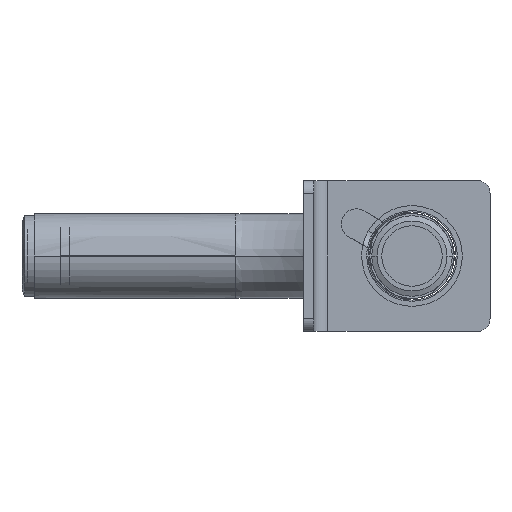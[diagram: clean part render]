
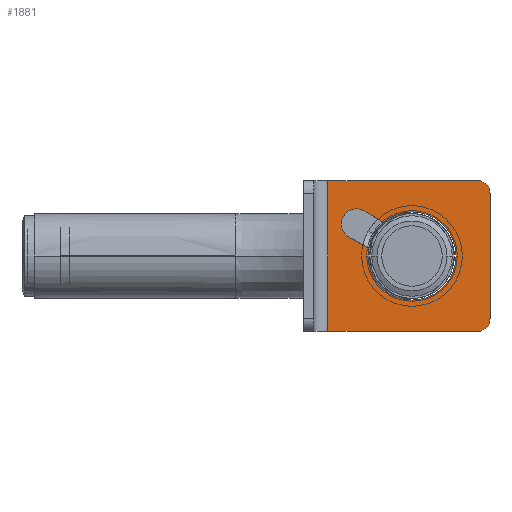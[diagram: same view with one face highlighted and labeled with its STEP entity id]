
A CAD part, front view. The second image highlights one B-rep face of the part: STEP entity #1881.
In plain terms, the highlighted planar face has unit normal (0, -1, 0).
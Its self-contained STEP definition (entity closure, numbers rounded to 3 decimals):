
#802=CARTESIAN_POINT('',(26.,-4.,25.));
#803=DIRECTION('',(0.,-1.,0.));
#804=DIRECTION('',(1.,0.,0.));
#805=AXIS2_PLACEMENT_3D('',#802,#803,#804);
#807=DIRECTION('',(0.,0.,1.));
#808=VECTOR('',#807,50.);
#809=CARTESIAN_POINT('',(31.,-4.,-25.));
#810=LINE('',#809,#808);
#811=CARTESIAN_POINT('',(26.,-4.,-25.));
#812=DIRECTION('',(0.,1.,0.));
#813=DIRECTION('',(1.,0.,0.));
#814=AXIS2_PLACEMENT_3D('',#811,#812,#813);
#816=CARTESIAN_POINT('',(-22.084,-4.,12.75));
#817=DIRECTION('',(0.,-1.,0.));
#818=DIRECTION('',(0.5,0.,0.866));
#819=AXIS2_PLACEMENT_3D('',#816,#817,#818);
#821=DIRECTION('',(-0.866,0.,0.5));
#822=VECTOR('',#821,9.061);
#823=CARTESIAN_POINT('',(-17.237,-4.,3.023));
#824=LINE('',#823,#822);
#825=CARTESIAN_POINT('',(0.,-4.,0.));
#826=DIRECTION('',(0.,-1.,0.));
#827=DIRECTION('',(-0.985,0.,0.173));
#828=AXIS2_PLACEMENT_3D('',#825,#826,#827);
#830=DIRECTION('',(0.866,0.,-0.5));
#831=VECTOR('',#830,9.061);
#832=CARTESIAN_POINT('',(-19.084,-4.,17.946));
#833=LINE('',#832,#831);
#850=DIRECTION('',(-1.,0.,0.));
#851=VECTOR('',#850,59.409);
#852=CARTESIAN_POINT('',(26.,-4.,-30.));
#853=LINE('',#852,#851);
#867=DIRECTION('',(0.,0.,1.));
#868=VECTOR('',#867,60.);
#869=CARTESIAN_POINT('',(-33.409,-4.,-30.));
#870=LINE('',#869,#868);
#982=DIRECTION('',(-1.,0.,0.));
#983=VECTOR('',#982,59.409);
#984=CARTESIAN_POINT('',(26.,-4.,30.));
#985=LINE('',#984,#983);
#1105=CARTESIAN_POINT('',(-33.409,-4.,-30.));
#1106=CARTESIAN_POINT('',(-33.409,-4.,30.));
#1107=VERTEX_POINT('',#1105);
#1108=VERTEX_POINT('',#1106);
#1125=CARTESIAN_POINT('',(31.,-4.,25.));
#1126=CARTESIAN_POINT('',(26.,-4.,30.));
#1127=VERTEX_POINT('',#1125);
#1128=VERTEX_POINT('',#1126);
#1133=CARTESIAN_POINT('',(31.,-4.,-25.));
#1134=CARTESIAN_POINT('',(26.,-4.,-30.));
#1135=VERTEX_POINT('',#1133);
#1136=VERTEX_POINT('',#1134);
#1157=CARTESIAN_POINT('',(-19.084,-4.,17.946));
#1158=CARTESIAN_POINT('',(-25.084,-4.,7.554));
#1159=VERTEX_POINT('',#1157);
#1160=VERTEX_POINT('',#1158);
#1161=CARTESIAN_POINT('',(-11.237,-4.,13.416));
#1162=VERTEX_POINT('',#1161);
#1163=CARTESIAN_POINT('',(-17.237,-4.,3.023));
#1164=VERTEX_POINT('',#1163);
#1854=CARTESIAN_POINT('',(31.,-4.,-30.));
#1855=DIRECTION('',(0.,-1.,0.));
#1856=DIRECTION('',(-1.,0.,0.));
#1857=AXIS2_PLACEMENT_3D('',#1854,#1855,#1856);
#1858=PLANE('',#1857);
#1859=ORIENTED_EDGE('',*,*,#1844,.F.);
#1861=ORIENTED_EDGE('',*,*,#1860,.F.);
#1863=ORIENTED_EDGE('',*,*,#1862,.T.);
#1865=ORIENTED_EDGE('',*,*,#1864,.T.);
#1867=ORIENTED_EDGE('',*,*,#1866,.T.);
#1869=ORIENTED_EDGE('',*,*,#1868,.F.);
#1870=EDGE_LOOP('',(#1859,#1861,#1863,#1865,#1867,#1869));
#1871=FACE_OUTER_BOUND('',#1870,.F.);
#1873=ORIENTED_EDGE('',*,*,#1872,.T.);
#1875=ORIENTED_EDGE('',*,*,#1874,.F.);
#1877=ORIENTED_EDGE('',*,*,#1876,.T.);
#1878=ORIENTED_EDGE('',*,*,#1758,.F.);
#1879=EDGE_LOOP('',(#1873,#1875,#1877,#1878));
#1880=FACE_BOUND('',#1879,.F.);
#806=CIRCLE('',#805,5.);
#815=CIRCLE('',#814,5.);
#820=CIRCLE('',#819,6.);
#829=CIRCLE('',#828,17.5);
#1758=EDGE_CURVE('',#1159,#1162,#833,.T.);
#1844=EDGE_CURVE('',#1127,#1128,#806,.T.);
#1860=EDGE_CURVE('',#1135,#1127,#810,.T.);
#1862=EDGE_CURVE('',#1135,#1136,#815,.T.);
#1864=EDGE_CURVE('',#1136,#1107,#853,.T.);
#1866=EDGE_CURVE('',#1107,#1108,#870,.T.);
#1868=EDGE_CURVE('',#1128,#1108,#985,.T.);
#1872=EDGE_CURVE('',#1159,#1160,#820,.T.);
#1874=EDGE_CURVE('',#1164,#1160,#824,.T.);
#1876=EDGE_CURVE('',#1164,#1162,#829,.T.);
#1881=ADVANCED_FACE('',(#1871,#1880),#1858,.T.);
